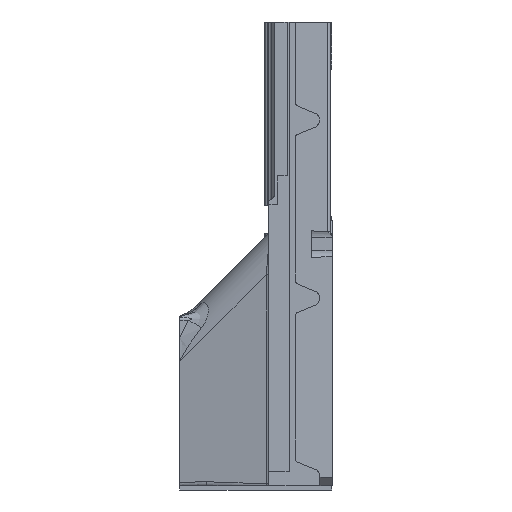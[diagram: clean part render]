
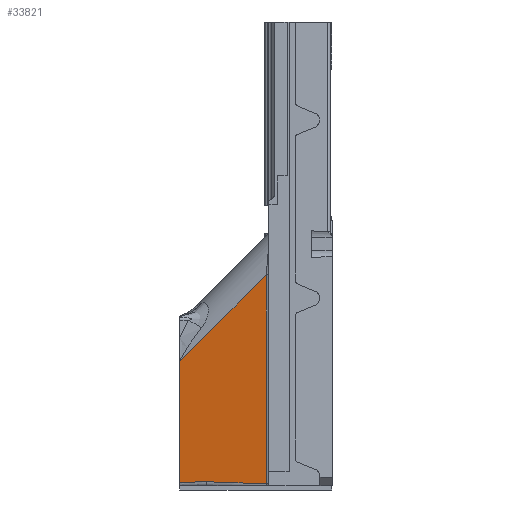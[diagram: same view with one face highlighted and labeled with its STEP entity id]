
A CAD part, left-side view. The second image highlights one B-rep face of the part: STEP entity #33821.
In plain terms, the highlighted planar face has unit normal (-0.98, 0.202, 0).
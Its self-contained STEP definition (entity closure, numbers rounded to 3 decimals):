
#666 = CARTESIAN_POINT ( 'NONE',  ( -219.979, 221.234, 14.539 ) ) ;
#1122 = CARTESIAN_POINT ( 'NONE',  ( -222.27, 210.096, 14.808 ) ) ;
#1380 = VECTOR ( 'NONE', #9197, 1000. ) ;
#1684 = EDGE_CURVE ( 'NONE', #5344, #22014, #46310, .T. ) ;
#1921 = CARTESIAN_POINT ( 'NONE',  ( -216.735, 237., 13.567 ) ) ;
#2909 = CARTESIAN_POINT ( 'NONE',  ( -244.721, 100.985, 339.882 ) ) ;
#3097 = VERTEX_POINT ( 'NONE', #14776 ) ;
#3400 = LINE ( 'NONE', #31646, #22009 ) ;
#3530 = DIRECTION ( 'NONE',  ( 0., 0., -1. ) ) ;
#4365 = FACE_OUTER_BOUND ( 'NONE', #11472, .T. ) ;
#5344 = VERTEX_POINT ( 'NONE', #34153 ) ;
#6642 = VERTEX_POINT ( 'NONE', #1921 ) ;
#6983 = B_SPLINE_CURVE_WITH_KNOTS ( 'NONE', 3,
 ( #7896, #34112, #1122, #666, #34414, #30510, #33955, #8210 ),
 .UNSPECIFIED., .F., .F.,
 ( 4, 2, 2, 4 ),
 ( 0., 0.514, 0.772, 1. ),
 .UNSPECIFIED. ) ;
#7896 = CARTESIAN_POINT ( 'NONE',  ( -225.503, 194.387, 14.489 ) ) ;
#8210 = CARTESIAN_POINT ( 'NONE',  ( -216.735, 237., 13.567 ) ) ;
#9197 = DIRECTION ( 'NONE',  ( -0.144, -0.7, 0.7 ) ) ;
#11472 = EDGE_LOOP ( 'NONE', ( #31907, #30634, #19209, #18972, #47268 ) ) ;
#11565 = CARTESIAN_POINT ( 'NONE',  ( -244.721, 100.985, 11.227 ) ) ;
#12420 = EDGE_CURVE ( 'NONE', #12804, #3097, #17382, .T. ) ;
#12804 = VERTEX_POINT ( 'NONE', #48180 ) ;
#13556 = EDGE_CURVE ( 'NONE', #6642, #5344, #3400, .T. ) ;
#14776 = CARTESIAN_POINT ( 'NONE',  ( -225.503, 194.387, 14.489 ) ) ;
#17382 = LINE ( 'NONE', #11565, #19695 ) ;
#18972 = ORIENTED_EDGE ( 'NONE', *, *, #1684, .F. ) ;
#19141 = PLANE ( 'NONE',  #24098 ) ;
#19209 = ORIENTED_EDGE ( 'NONE', *, *, #35508, .F. ) ;
#19498 = DIRECTION ( 'NONE',  ( 0.201, 0.979, 0.034 ) ) ;
#19695 = VECTOR ( 'NONE', #19498, 1000. ) ;
#22009 = VECTOR ( 'NONE', #24431, 1000. ) ;
#22014 = VERTEX_POINT ( 'NONE', #2909 ) ;
#24032 = DIRECTION ( 'NONE',  ( 0.202, 0.979, 0. ) ) ;
#24098 = AXIS2_PLACEMENT_3D ( 'NONE', #27458, #39041, #24032 ) ;
#24431 = DIRECTION ( 'NONE',  ( 0., 0., 1. ) ) ;
#24588 = VECTOR ( 'NONE', #3530, 1000. ) ;
#25173 = LINE ( 'NONE', #25842, #24588 ) ;
#25842 = CARTESIAN_POINT ( 'NONE',  ( -244.721, 100.985, 755. ) ) ;
#27458 = CARTESIAN_POINT ( 'NONE',  ( -246.364, 93., 755. ) ) ;
#30510 = CARTESIAN_POINT ( 'NONE',  ( -217.904, 231.317, 14.025 ) ) ;
#30634 = ORIENTED_EDGE ( 'NONE', *, *, #12420, .F. ) ;
#31646 = CARTESIAN_POINT ( 'NONE',  ( -216.735, 237., -8. ) ) ;
#31907 = ORIENTED_EDGE ( 'NONE', *, *, #42573, .F. ) ;
#33821 = ADVANCED_FACE ( 'NONE', ( #4365 ), #19141, .F. ) ;
#33955 = CARTESIAN_POINT ( 'NONE',  ( -217.303, 234.236, 13.813 ) ) ;
#34112 = CARTESIAN_POINT ( 'NONE',  ( -223.892, 202.215, 14.762 ) ) ;
#34153 = CARTESIAN_POINT ( 'NONE',  ( -216.735, 237., 203.866 ) ) ;
#34414 = CARTESIAN_POINT ( 'NONE',  ( -219.238, 224.833, 14.394 ) ) ;
#35508 = EDGE_CURVE ( 'NONE', #22014, #12804, #25173, .T. ) ;
#39041 = DIRECTION ( 'NONE',  ( 0.979, -0.202, 0. ) ) ;
#42573 = EDGE_CURVE ( 'NONE', #3097, #6642, #6983, .T. ) ;
#46310 = LINE ( 'NONE', #46652, #1380 ) ;
#46652 = CARTESIAN_POINT ( 'NONE',  ( -287.382, -106.347, 547.213 ) ) ;
#47268 = ORIENTED_EDGE ( 'NONE', *, *, #13556, .F. ) ;
#48180 = CARTESIAN_POINT ( 'NONE',  ( -244.721, 100.985, 11.227 ) ) ;
